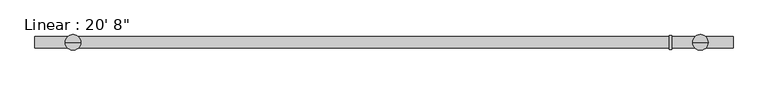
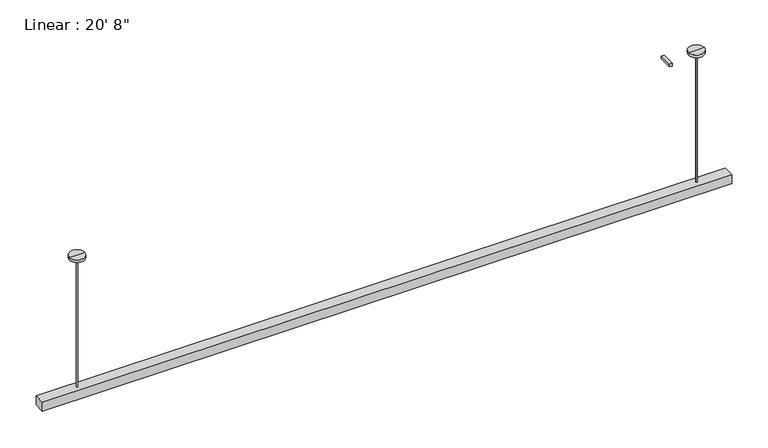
"""IFC4 building model written with IfcOpenShell, lengths in millimetres: light fixture geometry."""

from ifc_helpers import new_model, si_unit, frame, origin, place, context, project, spatial, polyline, circle_curve, outline, extrude, source, transform, mapped, element, save
from ifc_brep_helpers import plane_surface, cylinder_surface, advanced_brep


def light_fixture_7ab595b3(model_context):
    return source(origin(), model_context, "Body", "SolidModel", [
        advanced_brep(
        [(-5417.82, 0.0, 5185.4634635), (-5278.12, 0.0, 5185.4634635), (-5278.12, 0.0, 5159.8407066), (-5417.82, 0.0, 5159.8407066), (-5341.62, 0.0, 5159.8407066), (-5354.32, 0.0, 5159.8407066), (-5341.62, 0.0, 3918.5038362), (-5354.32, 0.0, 3918.5038362), (-5347.97, 0.0, 3918.5038362), (-5347.97, 0.0, 5185.4634635)],
        [
            (0, 1, circle_curve(frame((-5347.97, 0.0, 5185.4634635), z_axis=(0.0, 0.0, -1.0), x_axis=(1.0, 0.0, 0.0)), 69.85)),
            (1, 2),
            (2, 3, circle_curve(frame((-5347.97, 0.0, 5159.8407066), z_axis=(0.0, 0.0, 1.0), x_axis=(1.0, 0.0, 0.0)), 69.85)),
            (3, 0),
            (1, 0, circle_curve(frame((-5347.97, 0.0, 5185.4634635), z_axis=(0.0, 0.0, -1.0), x_axis=(1.0, 0.0, 0.0)), 69.85)),
            (3, 2, circle_curve(frame((-5347.97, 0.0, 5159.8407066), z_axis=(0.0, 0.0, 1.0), x_axis=(1.0, 0.0, 0.0)), 69.85)),
            (2, 4),
            (4, 5, circle_curve(frame((-5347.97, 0.0, 5159.8407066), z_axis=(0.0, 0.0, 1.0), x_axis=(1.0, 0.0, 0.0)), 6.35)),
            (5, 3),
            (5, 4, circle_curve(frame((-5347.97, 0.0, 5159.8407066), z_axis=(0.0, 0.0, 1.0), x_axis=(1.0, 0.0, 0.0)), 6.35)),
            (4, 6),
            (6, 7, circle_curve(frame((-5347.97, 0.0, 3918.5038362), z_axis=(0.0, 0.0, 1.0), x_axis=(1.0, 0.0, 0.0)), 6.35)),
            (7, 5),
            (7, 6, circle_curve(frame((-5347.97, 0.0, 3918.5038362), z_axis=(0.0, 0.0, 1.0), x_axis=(1.0, 0.0, 0.0)), 6.35)),
            (6, 8),
            (8, 7),
            (9, 1),
            (0, 9),
        ],
        [
            cylinder_surface(frame((-5347.97, 0.0, 5280.7134635), z_axis=(0.0, 0.0, 1.0), x_axis=(1.0, 0.0, 0.0)), 69.85),
            plane_surface(frame((-5347.97, 0.0, 5159.8407066), z_axis=(0.0, 0.0, -1.0), x_axis=(1.0, 0.0, 0.0))),
            cylinder_surface(frame((-5347.97, 0.0, 5280.7134635), z_axis=(0.0, 0.0, 1.0), x_axis=(1.0, 0.0, 0.0)), 6.35),
            plane_surface(frame((-5347.97, 0.0, 3918.5038362), z_axis=(0.0, 0.0, -1.0), x_axis=(1.0, 0.0, 0.0))),
            plane_surface(frame((-5347.97, 0.0, 5185.4634635), z_axis=(0.0, 0.0, 1.0), x_axis=(1.0, 0.0, 0.0))),
        ],
        [
            (0, [[1, 2, 3, 4]]),
            (0, [[5, -4, 6, -2]]),
            (1, [[-3, 7, 8, 9]]),
            (1, [[-6, -9, 10, -7]]),
            (2, [[-8, 11, 12, 13]]),
            (2, [[-10, -13, 14, -11]]),
            (3, [[-12, 15, 16]]),
            (3, [[-14, -16, -15]]),
            (4, [[17, -1, 18]]),
            (4, [[-18, -5, -17]]),
        ],
    ),
        advanced_brep(
        [(337.82, 0.0, 5185.4634635), (198.12, 0.0, 5185.4634635), (267.97, 0.0, 5185.4634635), (337.82, 0.0, 5159.8407066), (198.12, 0.0, 5159.8407066), (274.32, 0.0, 5159.8407066), (261.62, 0.0, 5159.8407066), (274.32, 0.0, 3918.5038362), (261.62, 0.0, 3918.5038362), (267.97, 0.0, 3918.5038362)],
        [
            (0, 1, circle_curve(frame((267.97, 0.0, 5185.4634635), z_axis=(0.0, 0.0, 1.0), x_axis=(-1.0, 0.0, 0.0)), 69.85)),
            (1, 2),
            (2, 0),
            (1, 0, circle_curve(frame((267.97, 0.0, 5185.4634635), z_axis=(0.0, 0.0, 1.0), x_axis=(-1.0, 0.0, 0.0)), 69.85)),
            (3, 4, circle_curve(frame((267.97, 0.0, 5159.8407066), z_axis=(0.0, 0.0, 1.0), x_axis=(-1.0, 0.0, 0.0)), 69.85)),
            (4, 1),
            (0, 3),
            (4, 3, circle_curve(frame((267.97, 0.0, 5159.8407066), z_axis=(0.0, 0.0, 1.0), x_axis=(-1.0, 0.0, 0.0)), 69.85)),
            (5, 6, circle_curve(frame((267.97, 0.0, 5159.8407066), z_axis=(0.0, 0.0, 1.0), x_axis=(-1.0, 0.0, 0.0)), 6.35)),
            (6, 4),
            (3, 5),
            (6, 5, circle_curve(frame((267.97, 0.0, 5159.8407066), z_axis=(0.0, 0.0, 1.0), x_axis=(-1.0, 0.0, 0.0)), 6.35)),
            (7, 8, circle_curve(frame((267.97, 0.0, 3918.5038362), z_axis=(0.0, 0.0, 1.0), x_axis=(-1.0, 0.0, 0.0)), 6.35)),
            (8, 6),
            (5, 7),
            (8, 7, circle_curve(frame((267.97, 0.0, 3918.5038362), z_axis=(0.0, 0.0, 1.0), x_axis=(-1.0, 0.0, 0.0)), 6.35)),
            (9, 8),
            (7, 9),
        ],
        [
            plane_surface(frame((267.97, 0.0, 5185.4634635), z_axis=(0.0, 0.0, 1.0), x_axis=(-1.0, 0.0, 0.0))),
            cylinder_surface(frame((267.97, 0.0, 5280.7134635), z_axis=(0.0, 0.0, -1.0), x_axis=(-1.0, 0.0, 0.0)), 69.85),
            plane_surface(frame((267.97, 0.0, 5159.8407066), z_axis=(0.0, 0.0, -1.0), x_axis=(-1.0, 0.0, 0.0))),
            cylinder_surface(frame((267.97, 0.0, 5280.7134635), z_axis=(0.0, 0.0, -1.0), x_axis=(-1.0, 0.0, 0.0)), 6.35),
            plane_surface(frame((267.97, 0.0, 3918.5038362), z_axis=(0.0, 0.0, -1.0), x_axis=(-1.0, 0.0, 0.0))),
        ],
        [
            (0, [[1, 2, 3]]),
            (0, [[4, -3, -2]]),
            (1, [[5, 6, -1, 7]]),
            (1, [[8, -7, -4, -6]]),
            (2, [[9, 10, -5, 11]]),
            (2, [[12, -11, -8, -10]]),
            (3, [[13, 14, -9, 15]]),
            (3, [[16, -15, -12, -14]]),
            (4, [[17, -13, 18]]),
            (4, [[-18, -16, -17]]),
        ],
    ),
        extrude(outline(polyline([(12.7, -63.5), (-12.7, -63.5), (-12.7, 63.5), (12.7, 63.5), (12.7, -63.5)])), frame((0.0, 0.0, 5160.0634635), z_axis=(0.0, 0.0, 1.0), x_axis=(1.0, 0.0, 0.0)), (0.0, 0.0, 1.0), 25.4),
        extrude(outline(polyline([(561.0128607, 52.4766217), (561.0128607, -49.1233783), (-5689.6, -49.1233783), (-5689.6, 52.4766217), (561.0128607, 52.4766217)])), frame((0.0, 0.0, 3832.7788362), z_axis=(0.0, 0.0, 1.0), x_axis=(1.0, 0.0, 0.0)), (0.0, 0.0, 1.0), 85.725),
    ])


if __name__ == "__main__":
    model = new_model("IFC4")
    model_context = context("Model", 3, world=origin())
    ifc_project = project(units=[si_unit("LENGTHUNIT", "METRE", prefix="MILLI")], contexts=[model_context])
    site = spatial("IfcSite", under=ifc_project)
    building = spatial("IfcBuilding", under=site)
    placement = place(None, origin())
    light_fixture_shape = light_fixture_7ab595b3(model_context)
    element("IfcLightFixture", 1, ObjectType="Linear : 20' 8\"", at=placement, inside=building, context=model_context, shape_type="MappedRepresentation", body=[
        mapped(light_fixture_shape, transform((0.0, 0.0, 0.0), x_axis=(1.0, 0.0, 0.0), y_axis=(0.0, 1.0, 0.0), z_axis=(0.0, 0.0, 1.0))),
    ])
    save(model, "model.ifc")
